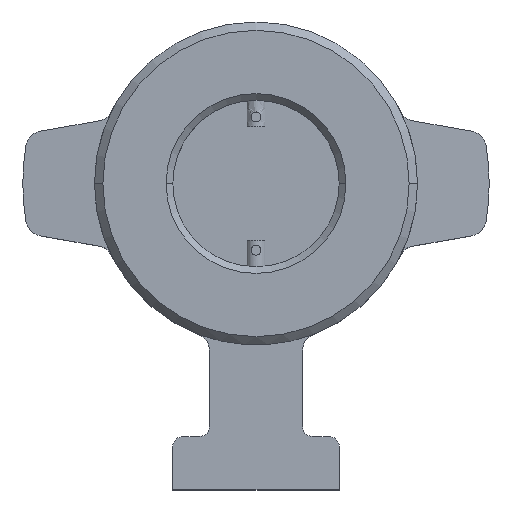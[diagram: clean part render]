
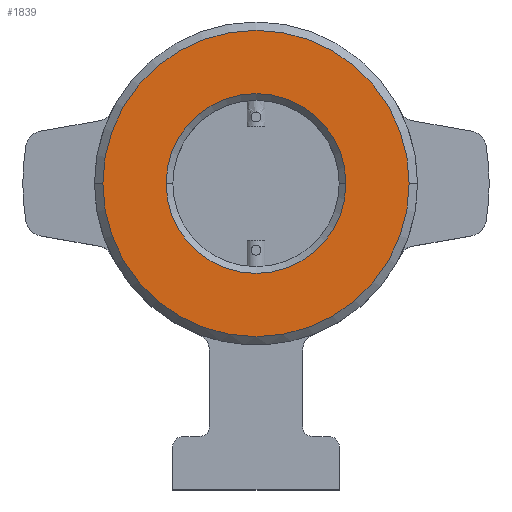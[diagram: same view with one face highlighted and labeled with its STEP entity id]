
A CAD part, top view. The second image highlights one B-rep face of the part: STEP entity #1839.
In plain terms, the highlighted planar face has unit normal (0, 0, 1).
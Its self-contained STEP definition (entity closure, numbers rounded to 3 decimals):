
#1085=CARTESIAN_POINT('',(-27.0,0.,30.0));
#1086=VERTEX_POINT('',#1085);
#1100=CARTESIAN_POINT('',(27.0,0.0,30.0));
#1101=VERTEX_POINT('',#1100);
#1108=CARTESIAN_POINT('',(0.0,0.0,30.0));
#1109=DIRECTION('',(0.0,0.0,1.0));
#1110=DIRECTION('',(-1.0,0.0,0.0));
#1111=AXIS2_PLACEMENT_3D('',#1108,#1109,#1110);
#1112=CIRCLE('',#1111,27.0);
#1113=EDGE_CURVE('',#1101,#1086,#1112,.T.);
#1161=CARTESIAN_POINT('',(-46.0,0.,30.0));
#1162=VERTEX_POINT('',#1161);
#1178=CARTESIAN_POINT('',(46.0,0.0,30.));
#1179=VERTEX_POINT('',#1178);
#1186=CARTESIAN_POINT('',(0.0,0.0,30.0));
#1187=DIRECTION('',(0.0,0.0,-1.0));
#1188=DIRECTION('',(-1.0,0.0,0.0));
#1189=AXIS2_PLACEMENT_3D('',#1186,#1187,#1188);
#1190=CIRCLE('',#1189,46.0);
#1191=EDGE_CURVE('',#1179,#1162,#1190,.T.);
#1802=CARTESIAN_POINT('',(0.0,0.0,30.0));
#1803=DIRECTION('',(0.0,0.0,-1.0));
#1804=DIRECTION('',(-1.0,0.0,0.0));
#1805=AXIS2_PLACEMENT_3D('',#1802,#1803,#1804);
#1806=CIRCLE('',#1805,46.0);
#1807=EDGE_CURVE('',#1162,#1179,#1806,.T.);
#1820=CARTESIAN_POINT('',(0.0,0.0,30.0));
#1821=DIRECTION('',(0.0,0.0,1.0));
#1822=DIRECTION('',(-1.0,0.0,0.0));
#1823=AXIS2_PLACEMENT_3D('',#1820,#1821,#1822);
#1824=PLANE('',#1823);
#1825=ORIENTED_EDGE('',*,*,#1191,.F.);
#1826=ORIENTED_EDGE('',*,*,#1807,.F.);
#1827=EDGE_LOOP('',(#1825,#1826));
#1828=FACE_OUTER_BOUND('',#1827,.T.);
#1829=ORIENTED_EDGE('',*,*,#1113,.F.);
#1830=CARTESIAN_POINT('',(0.0,0.0,30.0));
#1831=DIRECTION('',(0.0,0.0,1.0));
#1832=DIRECTION('',(-1.0,0.0,0.0));
#1833=AXIS2_PLACEMENT_3D('',#1830,#1831,#1832);
#1834=CIRCLE('',#1833,27.0);
#1835=EDGE_CURVE('',#1086,#1101,#1834,.T.);
#1836=ORIENTED_EDGE('',*,*,#1835,.F.);
#1837=EDGE_LOOP('',(#1829,#1836));
#1838=FACE_BOUND('',#1837,.T.);
#1839=ADVANCED_FACE('',(#1828,#1838),#1824,.T.);
